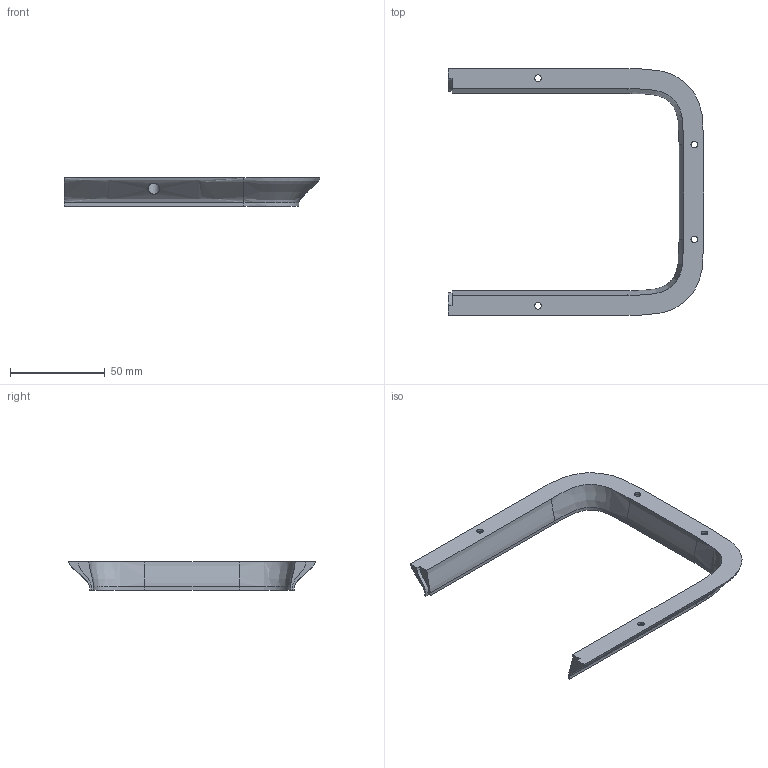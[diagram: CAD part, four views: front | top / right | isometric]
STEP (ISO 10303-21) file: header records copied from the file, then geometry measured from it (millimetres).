
FILE_DESCRIPTION(/* description */ (''),/* implementation_level */ '2;1');
FILE_NAME(/* name */ 'FRONT BASE.step',/* time_stamp */ '2024-02-28T16:51:08Z',/* author */ (''),/* organization */ (''),/* preprocessor_version */ 'ST-DEVELOPER v20',/* originating_system */ 'Autodesk Translation Framework v12.20.1.177',/* authorisation */ '');
FILE_SCHEMA (('AUTOMOTIVE_DESIGN { 1 0 10303 214 3 1 1 }'));
Length unit declared in the file: millimetre
Products named in the file (1): FRONT BASE
Bounding box: 134.8 x 130 x 15 mm (x, y, z)
Volume: 28969.2 mm3; surface area: 16796.2 mm2
Topology: 1 solids, 1 shells, 48 faces, 122 edges, 74 vertices
Faces by surface type: bspline 22, plane 14, cylinder 8, cone 4
Full cylindrical faces by diameter (mm): 3.5 x4, 6 x4
Entity records: 3104 total; most frequent: CARTESIAN_POINT 2055, ORIENTED_EDGE 244, DIRECTION 150, EDGE_CURVE 122, VERTEX_POINT 74, LINE 60, VECTOR 60, EDGE_LOOP 54
